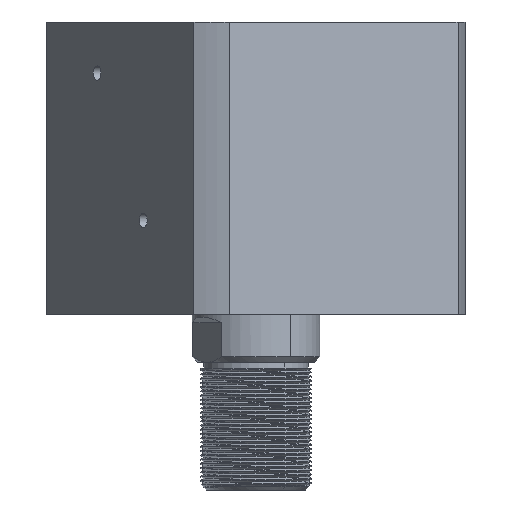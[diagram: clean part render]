
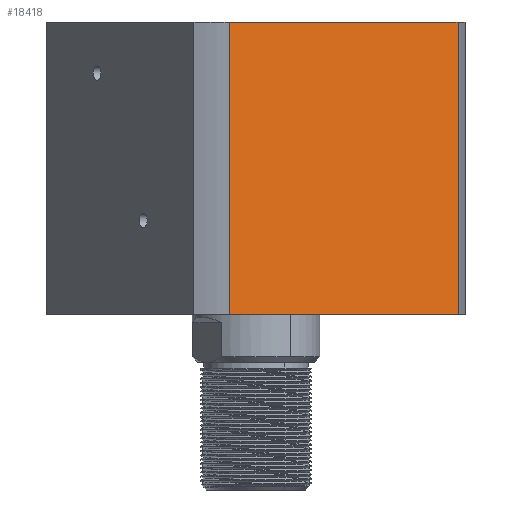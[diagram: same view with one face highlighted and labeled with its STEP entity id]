
A CAD part, front view. The second image highlights one B-rep face of the part: STEP entity #18418.
In plain terms, the highlighted planar face has unit normal (0.542, -0.84, 0) as drawn and (1, 0, 0) by its records, which use the part's own axes.
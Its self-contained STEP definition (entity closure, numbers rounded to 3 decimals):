
#103 = VERTEX_POINT ( 'NONE', #18908 ) ;
#334 = EDGE_CURVE ( 'NONE', #13866, #7309, #6241, .T. ) ;
#644 = LINE ( 'NONE', #18226, #9060 ) ;
#1160 = LINE ( 'NONE', #19993, #17449 ) ;
#2040 = VECTOR ( 'NONE', #17071, 1000. ) ;
#2870 = CARTESIAN_POINT ( 'NONE',  ( 57., 57., 103. ) ) ;
#2977 = EDGE_CURVE ( 'NONE', #103, #13866, #1160, .T. ) ;
#3519 = EDGE_CURVE ( 'NONE', #7309, #18944, #14492, .T. ) ;
#3736 = ORIENTED_EDGE ( 'NONE', *, *, #334, .F. ) ;
#4291 = EDGE_CURVE ( 'NONE', #103, #18944, #644, .T. ) ;
#5572 = PLANE ( 'NONE',  #7219 ) ;
#6241 = LINE ( 'NONE', #2870, #2040 ) ;
#7170 = DIRECTION ( 'NONE',  ( -1., 0., 0. ) ) ;
#7173 = FACE_OUTER_BOUND ( 'NONE', #18807, .T. ) ;
#7219 = AXIS2_PLACEMENT_3D ( 'NONE', #10200, #7170, #18183 ) ;
#7309 = VERTEX_POINT ( 'NONE', #8702 ) ;
#7510 = ORIENTED_EDGE ( 'NONE', *, *, #4291, .T. ) ;
#7605 = CARTESIAN_POINT ( 'NONE',  ( 57., -47.971, 103. ) ) ;
#8702 = CARTESIAN_POINT ( 'NONE',  ( 57., 47.971, 103. ) ) ;
#8792 = DIRECTION ( 'NONE',  ( 0., 1., 0. ) ) ;
#9060 = VECTOR ( 'NONE', #8792, 1000. ) ;
#10200 = CARTESIAN_POINT ( 'NONE',  ( 57., 57., 103. ) ) ;
#11242 = ORIENTED_EDGE ( 'NONE', *, *, #2977, .F. ) ;
#11804 = CARTESIAN_POINT ( 'NONE',  ( 57., 47.971, 0. ) ) ;
#12572 = CARTESIAN_POINT ( 'NONE',  ( 57., 47.971, -197. ) ) ;
#13675 = DIRECTION ( 'NONE',  ( 0., 0., 1. ) ) ;
#13866 = VERTEX_POINT ( 'NONE', #7605 ) ;
#14492 = LINE ( 'NONE', #12572, #18196 ) ;
#17071 = DIRECTION ( 'NONE',  ( 0., 1., 0. ) ) ;
#17449 = VECTOR ( 'NONE', #13675, 1000. ) ;
#18183 = DIRECTION ( 'NONE',  ( 0., -1., 0. ) ) ;
#18196 = VECTOR ( 'NONE', #19024, 1000. ) ;
#18226 = CARTESIAN_POINT ( 'NONE',  ( 57., 57., 0. ) ) ;
#18310 = ORIENTED_EDGE ( 'NONE', *, *, #3519, .F. ) ;
#18418 = ADVANCED_FACE ( 'NONE', ( #7173 ), #5572, .F. ) ;
#18807 = EDGE_LOOP ( 'NONE', ( #11242, #7510, #18310, #3736 ) ) ;
#18908 = CARTESIAN_POINT ( 'NONE',  ( 57., -47.971, 0. ) ) ;
#18944 = VERTEX_POINT ( 'NONE', #11804 ) ;
#19024 = DIRECTION ( 'NONE',  ( 0., 0., -1. ) ) ;
#19993 = CARTESIAN_POINT ( 'NONE',  ( 57., -47.971, -197. ) ) ;
